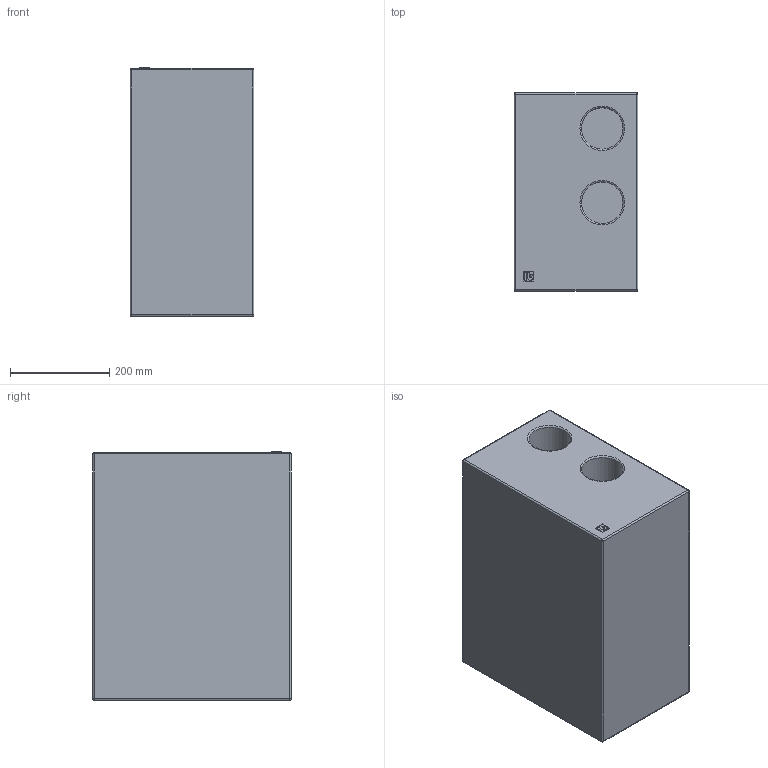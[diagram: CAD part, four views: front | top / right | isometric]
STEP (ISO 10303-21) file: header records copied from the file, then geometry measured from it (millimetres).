
FILE_DESCRIPTION(/* description */ (''),/* implementation_level */ '2;1');
FILE_NAME(/* name */ 'LB SUB 40 black.stp',/* time_stamp */ '2024-09-27T14:15:20+02:00',/* author */ ('d.streicher'),/* organization */ (''),/* preprocessor_version */ 'ST-DEVELOPER v20',/* originating_system */ 'Autodesk Inventor 2025',/* authorisation */ '');
FILE_SCHEMA (('AUTOMOTIVE_DESIGN { 1 0 10303 214 3 1 1 }'));
Length unit declared in the file: millimetre
Products named in the file (1): LB SUB 40 black
Bounding box: 250 x 400 x 501.5 mm (x, y, z)
Volume: 46219030.9 mm3; surface area: 1015224.6 mm2
Topology: 1 solids, 1 shells, 71 faces, 156 edges, 96 vertices
Faces by surface type: plane 41, cylinder 20, sphere 8, torus 2
Full cylindrical faces by diameter (mm): 22 x2, 84 x2
Entity records: 2074 total; most frequent: DIRECTION 346, CARTESIAN_POINT 324, ORIENTED_EDGE 312, EDGE_CURVE 156, AXIS2_PLACEMENT_3D 118, LINE 110, VECTOR 110, VERTEX_POINT 96
